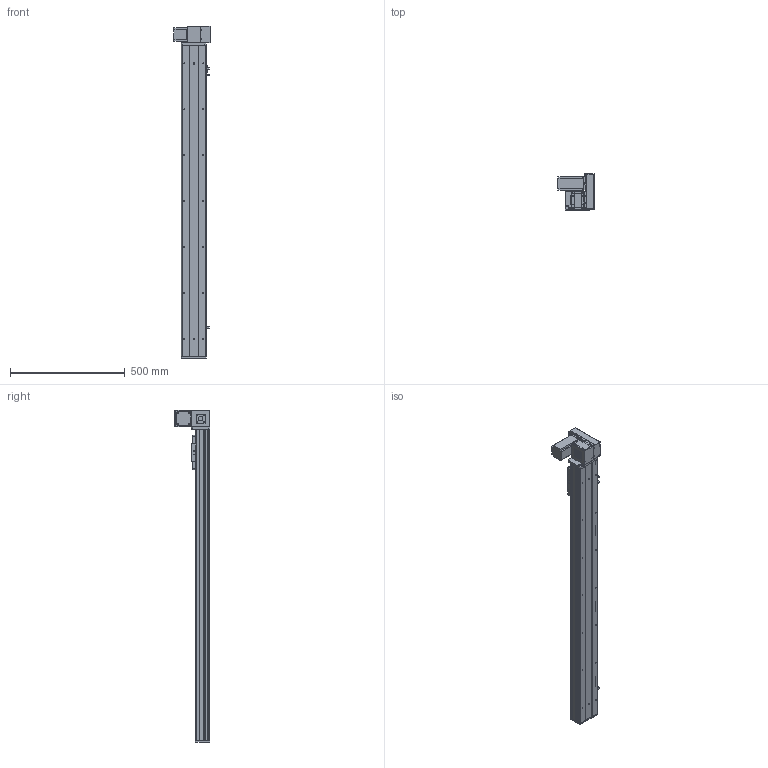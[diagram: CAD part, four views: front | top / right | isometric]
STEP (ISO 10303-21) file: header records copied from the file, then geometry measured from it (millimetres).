
FILE_DESCRIPTION (( 'STEP AP203' ), '1' );
FILE_NAME ('Y10CB-D90-S1100-UR-P400W.STEP', '2020-02-16T03:33:07', ( '微软用户' ), ( '微软中国' ), 'SwSTEP 2.0', 'SolidWorks 2017', '' );
FILE_SCHEMA (( 'CONFIG_CONTROL_DESIGN' ));
Length unit declared in the file: millimetre
Products named in the file (18): Y10B--々湍喘謫眊--666; 0B-埴倛裔啣; Y10B-耜蚾蟀諉啣----; 10CB-詩湍-; 00B-俋欶BM--; Y10CB- 掛极耜裔啣-毀---; 0CB-雄赽釱---; Y10CB-D90-S1100-UR-P400W; Y10C---詩湍揤啣; 0Cb-俋欶---; 10CB9-掛极; Y10B-々湍喘謫眊楊擘啣--; 10CB-耜裔; 0B-萇儂楊擘啣; Y135C-陔俋离換覜結え-; san松下电机400不带刹车----; Y100-135俋离換覜ん--; 0B-源倛裔啣
Assembly tree (21 placements, depth 2):
  Y10CB-D90-S1100-UR-P400W
    0CB-雄赽釱---
    0Cb-俋欶---
    Y10B-々湍喘謫眊楊擘啣--
    0B-萇儂楊擘啣
    san松下电机400不带刹车----
    0B-源倛裔啣
    0B-埴倛裔啣
    10CB-詩湍-
    Y10CB- 掛极耜裔啣-毀---  x2
    Y10C---詩湍揤啣  x2
    10CB9-掛极
    10CB-耜裔
    Y135C-陔俋离換覜結え-
    Y100-135俋离換覜ん--  x3
    Y10B--々湍喘謫眊--666
    Y10B-耜蚾蟀諉啣----
    00B-俋欶BM--
Bounding box: 157 x 155.5 x 1446 mm (x, y, z)
Volume: 3310564.3 mm3; surface area: 1499482.2 mm2
Topology: 21 solids, 21 shells, 990 faces, 2643 edges, 1730 vertices
Faces by surface type: cylinder 489, plane 477, cone 24
Entity records: 30912 total; most frequent: CARTESIAN_POINT 5469, DIRECTION 4998, ORIENTED_EDGE 4756, EDGE_CURVE 2378, AXIS2_PLACEMENT_3D 1789, VERTEX_POINT 1556, VECTOR 1420, LINE 1420
